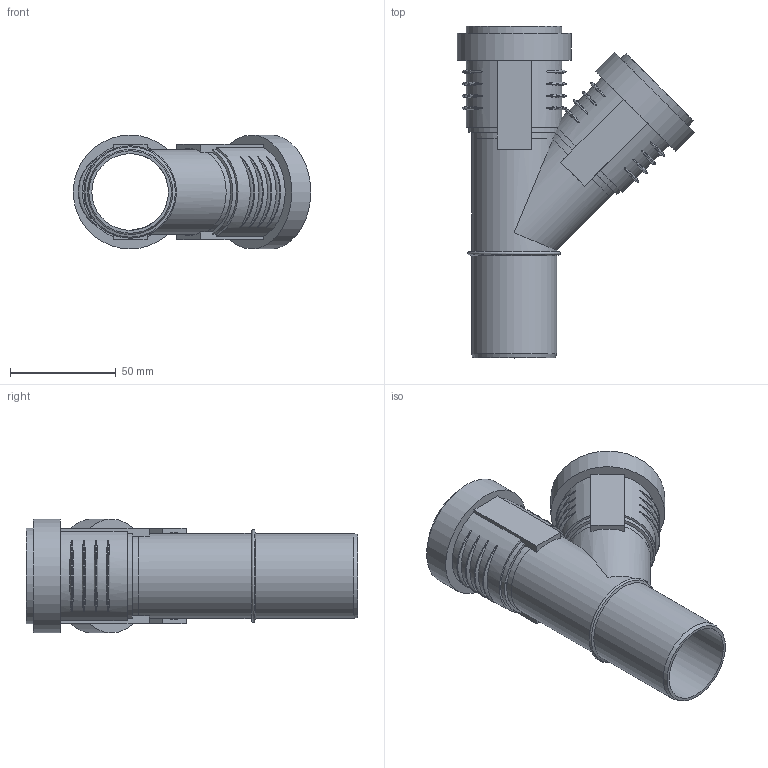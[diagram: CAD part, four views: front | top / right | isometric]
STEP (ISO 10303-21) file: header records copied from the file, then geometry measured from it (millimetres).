
FILE_DESCRIPTION(/* description */ (''),/* implementation_level */ '2;1');
FILE_NAME(/* name */ 'Z:\Geberit\Export\NewStep\390131.stp',/* time_stamp */ '2014-04-02T08:09:11+02:00',/* author */ ('ML'),/* organization */ (''),/* preprocessor_version */ 'ST-DEVELOPER v15.2',/* originating_system */ 'Autodesk Inventor 2014',/* authorisation */ '');
FILE_SCHEMA (('AUTOMOTIVE_DESIGN { 1 0 10303 214 3 1 1 }'));
Length unit declared in the file: millimetre
Products named in the file (4): 861336; 861400; 861400_1; 390131
Bounding box: 112.09 x 156.6 x 53.7 mm (x, y, z)
Volume: 68480.5 mm3; surface area: 69113.8 mm2
Topology: 3 solids, 3 shells, 127 faces, 316 edges, 220 vertices
Faces by surface type: torus 49, plane 37, cylinder 33, cone 7, bspline 1
Full cylindrical faces by diameter (mm): 36.15 x4, 40.15 x4, 41 x4, 45 x2, 49.7 x2, 53.7 x2
Entity records: 4941 total; most frequent: CARTESIAN_POINT 1932, ORIENTED_EDGE 562, DIRECTION 553, EDGE_CURVE 281, AXIS2_PLACEMENT_3D 240, VERTEX_POINT 211, EDGE_LOOP 184, ADVANCED_FACE 126
